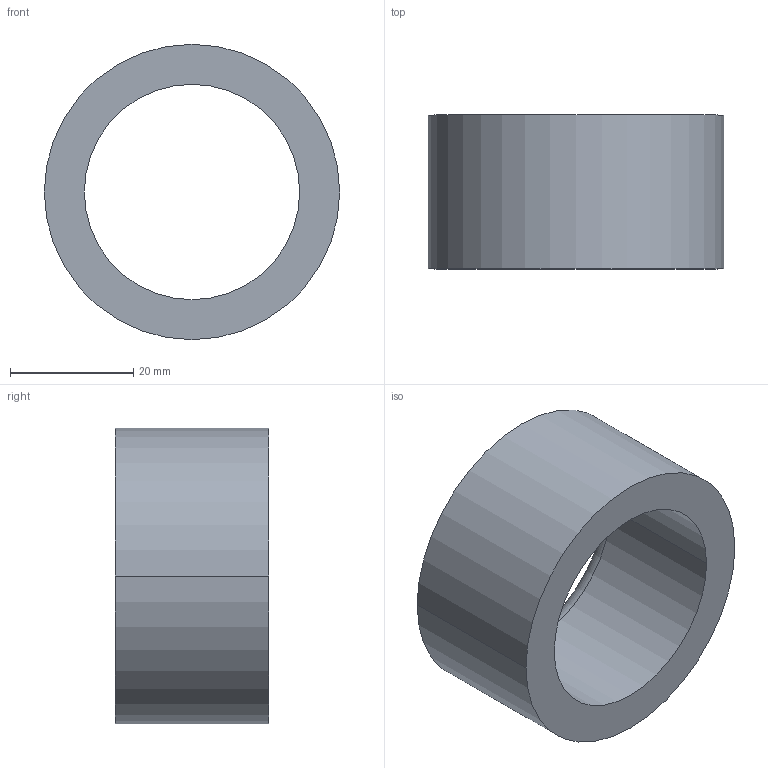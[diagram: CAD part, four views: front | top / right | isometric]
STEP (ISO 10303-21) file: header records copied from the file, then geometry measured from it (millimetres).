
FILE_DESCRIPTION (( 'STEP AP203' ), '1' );
FILE_NAME ('30800.WPP48J35.0.step', '2019-01-23T22:53:27', ( '' ), ( '' ), 'SwSTEP 2.0', 'SolidWorks 2017', '' );
FILE_SCHEMA (( 'CONFIG_CONTROL_DESIGN' ));
Length unit declared in the file: millimetre
Products named in the file (1): 30800.WPP48J35.0
Bounding box: 48 x 25 x 48 mm (x, y, z)
Volume: 20965.6 mm3; surface area: 8076.1 mm2
Topology: 1 solids, 1 shells, 8 faces, 16 edges, 10 vertices
Faces by surface type: cylinder 4, torus 2, plane 2
Entity records: 297 total; most frequent: DIRECTION 46, CARTESIAN_POINT 35, ORIENTED_EDGE 32, AXIS2_PLACEMENT_3D 21, EDGE_CURVE 16, CIRCLE 12, VERTEX_POINT 10, EDGE_LOOP 10
